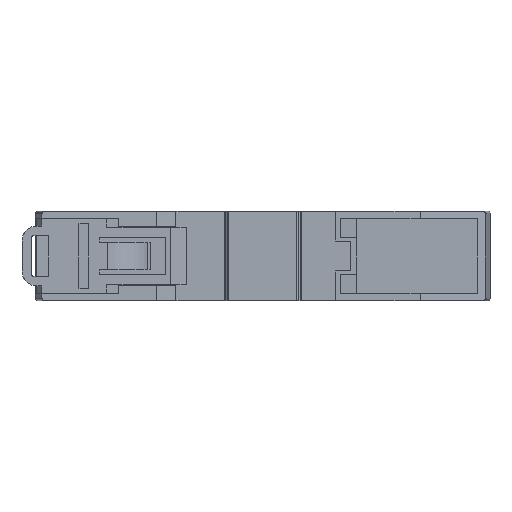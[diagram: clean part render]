
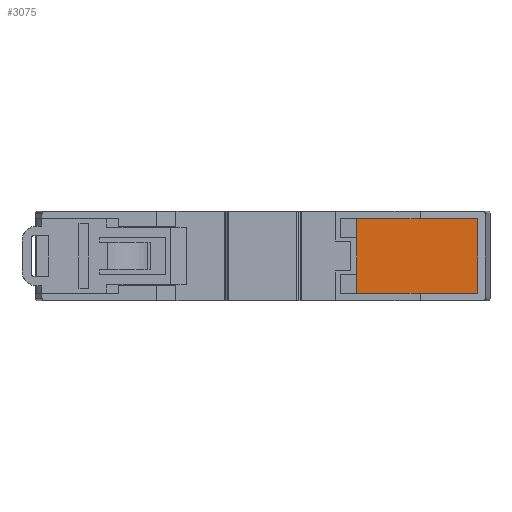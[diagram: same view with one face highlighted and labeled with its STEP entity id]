
A CAD part, front view. The second image highlights one B-rep face of the part: STEP entity #3075.
In plain terms, the highlighted planar face has unit normal (0, -1, 0).
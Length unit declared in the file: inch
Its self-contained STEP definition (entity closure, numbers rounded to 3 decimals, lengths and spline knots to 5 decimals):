
#164 = ORIENTED_EDGE ( 'NONE', *, *, #2822, .T. ) ;
#335 = CARTESIAN_POINT ( 'NONE',  ( 1.15289, 0.19685, 0.29528 ) ) ;
#659 = VERTEX_POINT ( 'NONE', #8291 ) ;
#660 = CARTESIAN_POINT ( 'NONE',  ( 1.69583, 0.19685, -0.29528 ) ) ;
#1105 = DIRECTION ( 'NONE',  ( -1., 0., 0. ) ) ;
#1400 = EDGE_CURVE ( 'NONE', #8241, #659, #4804, .T. ) ;
#1970 = VERTEX_POINT ( 'NONE', #5623 ) ;
#2182 = DIRECTION ( 'NONE',  ( 0., 1., 0. ) ) ;
#2262 = ORIENTED_EDGE ( 'NONE', *, *, #6653, .T. ) ;
#2767 = VECTOR ( 'NONE', #8557, 39.37008 ) ;
#2822 = EDGE_CURVE ( 'NONE', #659, #1970, #9112, .T. ) ;
#2885 = PLANE ( 'NONE',  #5511 ) ;
#3051 = VECTOR ( 'NONE', #7188, 39.37008 ) ;
#3075 = ADVANCED_FACE ( 'NONE', ( #8884 ), #2885, .F. ) ;
#3311 = LINE ( 'NONE', #335, #7122 ) ;
#3512 = LINE ( 'NONE', #8378, #7323 ) ;
#4661 = CARTESIAN_POINT ( 'NONE',  ( 0.74016, 0.19685, -0.29528 ) ) ;
#4804 = LINE ( 'NONE', #5496, #2767 ) ;
#5004 = EDGE_CURVE ( 'NONE', #1970, #7150, #3311, .T. ) ;
#5496 = CARTESIAN_POINT ( 'NONE',  ( 1.15289, 0.19685, -0.29528 ) ) ;
#5511 = AXIS2_PLACEMENT_3D ( 'NONE', #660, #2182, #7502 ) ;
#5623 = CARTESIAN_POINT ( 'NONE',  ( 1.69583, 0.19685, 0.29528 ) ) ;
#5767 = ORIENTED_EDGE ( 'NONE', *, *, #5004, .T. ) ;
#6401 = CARTESIAN_POINT ( 'NONE',  ( 0.74016, 0.19685, 0.29528 ) ) ;
#6426 = CARTESIAN_POINT ( 'NONE',  ( 1.69583, 0.19685, 0. ) ) ;
#6623 = ORIENTED_EDGE ( 'NONE', *, *, #1400, .T. ) ;
#6653 = EDGE_CURVE ( 'NONE', #7150, #8241, #3512, .T. ) ;
#7122 = VECTOR ( 'NONE', #1105, 39.37008 ) ;
#7150 = VERTEX_POINT ( 'NONE', #6401 ) ;
#7188 = DIRECTION ( 'NONE',  ( 0., 0., 1. ) ) ;
#7323 = VECTOR ( 'NONE', #9138, 39.37008 ) ;
#7502 = DIRECTION ( 'NONE',  ( -1., 0., 0. ) ) ;
#8241 = VERTEX_POINT ( 'NONE', #4661 ) ;
#8281 = EDGE_LOOP ( 'NONE', ( #6623, #164, #5767, #2262 ) ) ;
#8291 = CARTESIAN_POINT ( 'NONE',  ( 1.69583, 0.19685, -0.29528 ) ) ;
#8378 = CARTESIAN_POINT ( 'NONE',  ( 0.74016, 0.19685, 0. ) ) ;
#8557 = DIRECTION ( 'NONE',  ( 1., 0., 0. ) ) ;
#8884 = FACE_OUTER_BOUND ( 'NONE', #8281, .T. ) ;
#9112 = LINE ( 'NONE', #6426, #3051 ) ;
#9138 = DIRECTION ( 'NONE',  ( 0., 0., -1. ) ) ;
